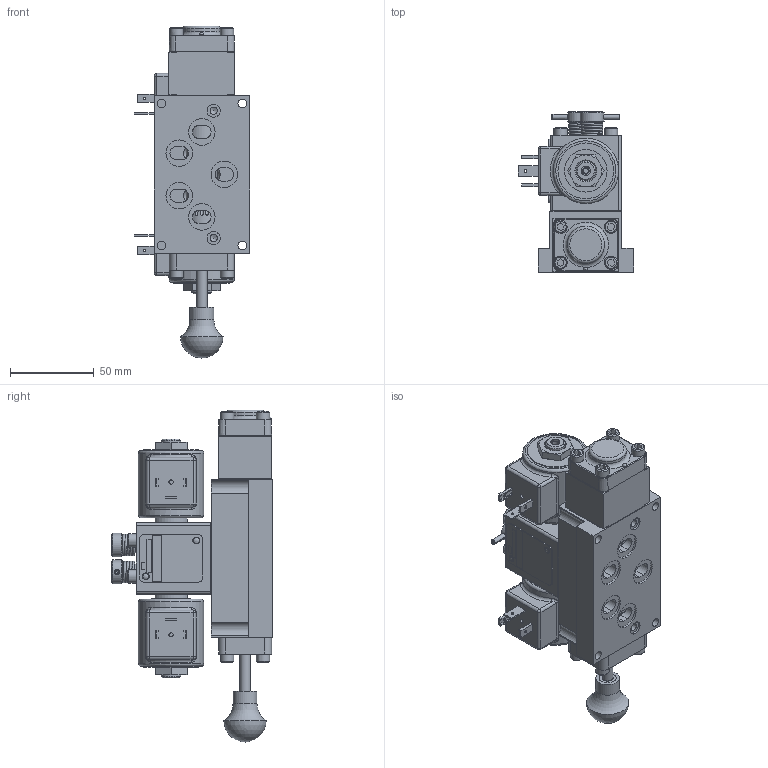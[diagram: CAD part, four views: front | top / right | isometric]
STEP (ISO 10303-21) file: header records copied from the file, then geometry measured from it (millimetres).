
FILE_DESCRIPTION(/* description */ (''),/* implementation_level */ '2;1');
FILE_NAME(/* name */ 'SS3PEDONOSQ.stp',/* time_stamp */ '2025-02-25T10:02:26-05:00',/* author */ ('rmckenna'),/* organization */ (''),/* preprocessor_version */ 'ST-DEVELOPER v20',/* originating_system */ 'Autodesk Inventor 2024',/* authorisation */ '');
FILE_SCHEMA (('AUTOMOTIVE_DESIGN { 1 0 10303 214 3 1 1 }'));
Products named in the file (1): Part84
Bounding box: 68.87 x 96.16 x 198.56 mm (x, y, z)
Volume: 401161.6 mm3; surface area: 120763.3 mm2
Topology: 4 solids, 41 shells, 1713 faces, 4063 edges, 2583 vertices
Faces by surface type: plane 771, cylinder 410, cone 326, torus 116, bspline 78, sphere 12
Full cylindrical faces by diameter (mm): 1.041 x2, 1.321 x2, 1.397 x2, 1.6 x6, 2.07 x2, 2.261 x2, 2.35 x2, 2.54 x2, 2.778 x2, 3.048 x5, 3.175 x9, 3.302 x2, 3.683 x12, 3.912 x1, 3.962 x2, 4.366 x11, 4.369 x3, 4.826 x16, 4.978 x2, 5.105 x4, 5.156 x12, 5.159 x13, 5.537 x7, 5.639 x2, 5.944 x1, 6.35 x2, 6.629 x4, 7.671 x1, 7.925 x2, 7.938 x12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
Entity records: 57463 total; most frequent: CARTESIAN_POINT 16138, DIRECTION 8186, ORIENTED_EDGE 8050, EDGE_CURVE 4025, AXIS2_PLACEMENT_3D 3101, VERTEX_POINT 2583, EDGE_LOOP 2010, LINE 1984
